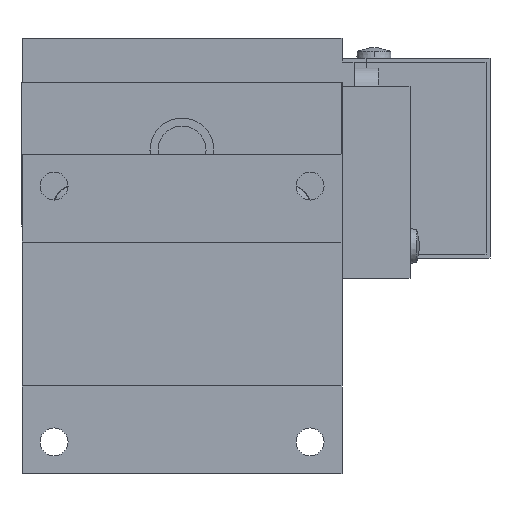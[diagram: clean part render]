
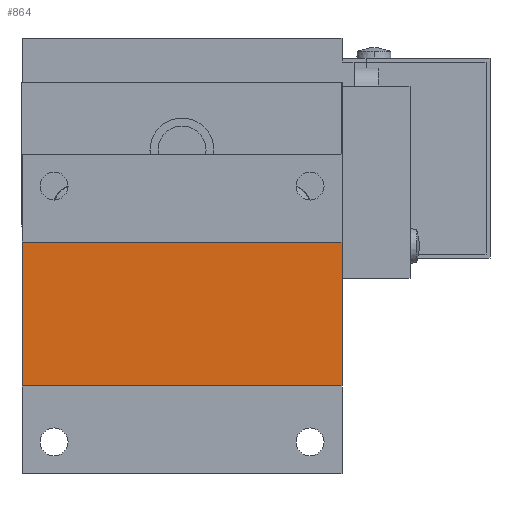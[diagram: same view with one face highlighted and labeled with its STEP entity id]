
A CAD part, front view. The second image highlights one B-rep face of the part: STEP entity #864.
In plain terms, the highlighted planar face has unit normal (0, -1, 0).
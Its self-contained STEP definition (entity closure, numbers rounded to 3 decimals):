
#860 = EDGE_CURVE ( 'NONE', #875, #1112, #9834, .T. ) ;
#864 = ADVANCED_FACE ( 'NONE', ( #9835 ), #9842, .F. ) ;
#874 = ORIENTED_EDGE ( 'NONE', *, *, #919, .F. ) ;
#875 = VERTEX_POINT ( 'NONE', #9879 ) ;
#878 = ORIENTED_EDGE ( 'NONE', *, *, #879, .F. ) ;
#879 = EDGE_CURVE ( 'NONE', #875, #1906, #9857, .T. ) ;
#919 = EDGE_CURVE ( 'NONE', #1906, #1872, #9913, .T. ) ;
#1112 = VERTEX_POINT ( 'NONE', #10209 ) ;
#1140 = EDGE_LOOP ( 'NONE', ( #1141, #874, #878, #1211 ) ) ;
#1141 = ORIENTED_EDGE ( 'NONE', *, *, #1210, .T. ) ;
#1210 = EDGE_CURVE ( 'NONE', #1112, #1872, #10462, .T. ) ;
#1211 = ORIENTED_EDGE ( 'NONE', *, *, #860, .T. ) ;
#1872 = VERTEX_POINT ( 'NONE', #12204 ) ;
#1906 = VERTEX_POINT ( 'NONE', #12254 ) ;
#9821 = DIRECTION ( 'NONE',  ( 0., 0., 1. ) ) ;
#9822 = DIRECTION ( 'NONE',  ( 0., 1., 0. ) ) ;
#9823 = CARTESIAN_POINT ( 'NONE',  ( 20., 0.5, -11. ) ) ;
#9826 = DIRECTION ( 'NONE',  ( -1., 0., 0. ) ) ;
#9827 = VECTOR ( 'NONE', #9826, 1000. ) ;
#9828 = CARTESIAN_POINT ( 'NONE',  ( 20., 0.5, -11. ) ) ;
#9834 = LINE ( 'NONE', #9828, #9827 ) ;
#9835 = FACE_OUTER_BOUND ( 'NONE', #1140, .T. ) ;
#9840 = AXIS2_PLACEMENT_3D ( 'NONE', #9823, #9822, #9821 ) ;
#9842 = PLANE ( 'NONE',  #9840 ) ;
#9854 = DIRECTION ( 'NONE',  ( 0., 0., -1. ) ) ;
#9855 = VECTOR ( 'NONE', #9854, 1000. ) ;
#9856 = CARTESIAN_POINT ( 'NONE',  ( 20., 0.5, -11. ) ) ;
#9857 = LINE ( 'NONE', #9856, #9855 ) ;
#9879 = CARTESIAN_POINT ( 'NONE',  ( 20., 0.5, -11. ) ) ;
#9913 = LINE ( 'NONE', #9966, #9965 ) ;
#9964 = DIRECTION ( 'NONE',  ( -1., 0., 0. ) ) ;
#9965 = VECTOR ( 'NONE', #9964, 1000. ) ;
#9966 = CARTESIAN_POINT ( 'NONE',  ( 20., 0.5, -29. ) ) ;
#10209 = CARTESIAN_POINT ( 'NONE',  ( -20., 0.5, -11. ) ) ;
#10459 = DIRECTION ( 'NONE',  ( 0., 0., -1. ) ) ;
#10460 = VECTOR ( 'NONE', #10459, 1000. ) ;
#10461 = CARTESIAN_POINT ( 'NONE',  ( -20., 0.5, -11. ) ) ;
#10462 = LINE ( 'NONE', #10461, #10460 ) ;
#12204 = CARTESIAN_POINT ( 'NONE',  ( -20., 0.5, -29. ) ) ;
#12254 = CARTESIAN_POINT ( 'NONE',  ( 20., 0.5, -29. ) ) ;
